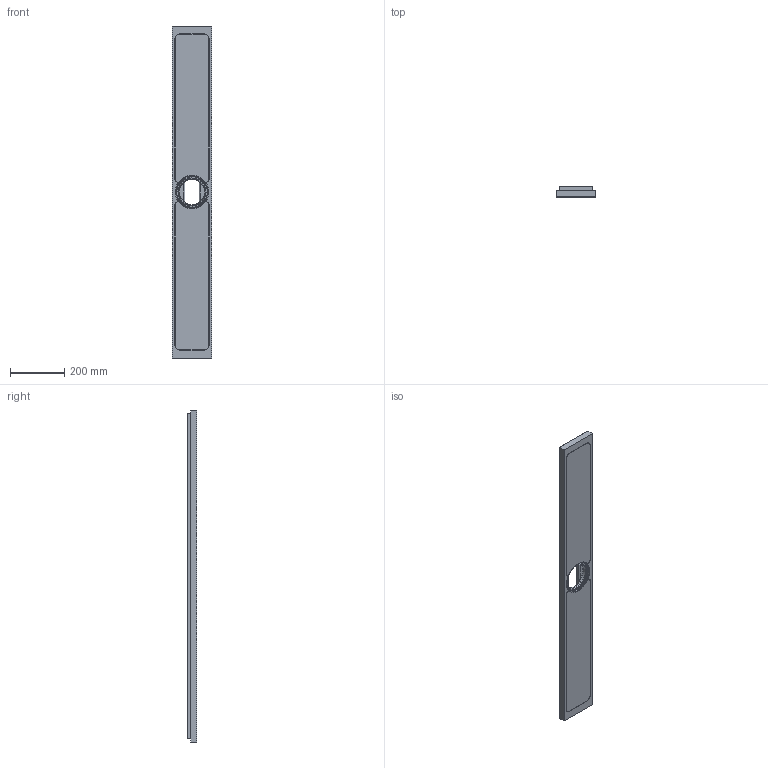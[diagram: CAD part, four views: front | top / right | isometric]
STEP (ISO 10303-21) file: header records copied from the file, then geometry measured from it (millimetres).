
FILE_DESCRIPTION(/* description */ ('Fertigteil'),/* implementation_level */ '2;1');
FILE_NAME(/* name */ 'C:\Users\fuser-vault-job\AppData\Local\Temp\MuM_hbjkxm1p.vuv\D-000002214.iam_.step',/* time_stamp */ '2022-07-18T17:07:04+02:00',/* author */ ('pd'),/* organization */ (''),/* preprocessor_version */ 'ST-DEVELOPER v18.1',/* originating_system */ 'Autodesk Inventor 2020',/* authorisation */ '');
FILE_SCHEMA (('AUTOMOTIVE_DESIGN { 1 0 10303 214 3 1 1 }'));
Products named in the file (4): 075100057; 075100057_1; D-000002181; 075100057_2
Assembly tree (4 placements, depth 2):
  075100057
    075100057_1
    D-000002181
    075100057_2  x2
Bounding box: 145.7 x 35 x 1219.2 mm (x, y, z)
Volume: 3882301.6 mm3; surface area: 1108185.1 mm2
Topology: 6 solids, 6 shells, 3652 faces, 8630 edges, 4882 vertices
Faces by surface type: cylinder 1479, bspline 1002, plane 672, sphere 344, torus 85, cone 70
Full cylindrical faces by diameter (mm): 8 x3
Entity records: 200434 total; most frequent: CARTESIAN_POINT 118910, ORIENTED_EDGE 16796, DIRECTION 15949, EDGE_CURVE 8398, AXIS2_PLACEMENT_3D 6329, VERTEX_POINT 4862, EDGE_LOOP 3744, FACE_OUTER_BOUND 3640
